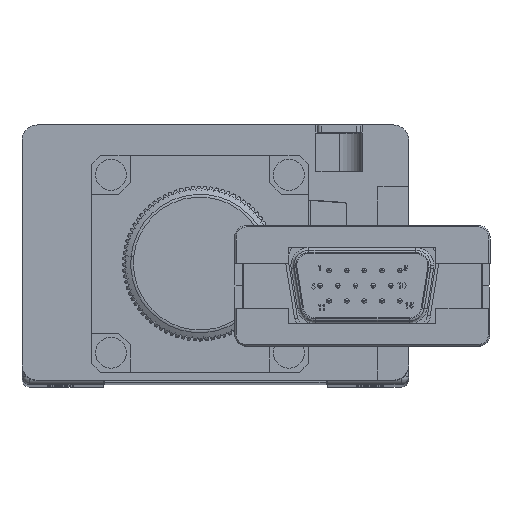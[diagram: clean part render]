
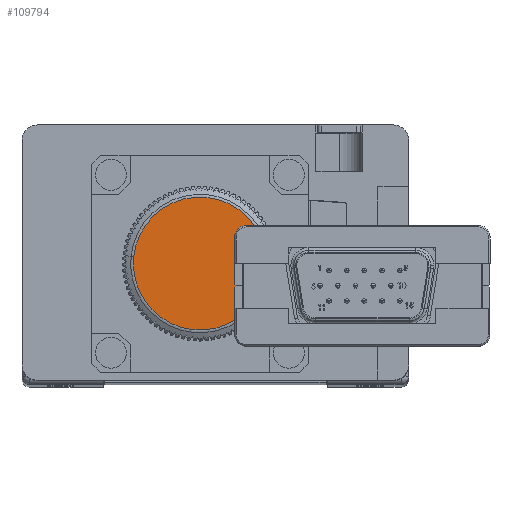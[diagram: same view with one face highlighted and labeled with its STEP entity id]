
A CAD part, top view. The second image highlights one B-rep face of the part: STEP entity #109794.
In plain terms, the highlighted planar face has unit normal (0, 0, 1).
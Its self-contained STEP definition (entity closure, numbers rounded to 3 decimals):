
#4438 = FACE_OUTER_BOUND ( 'NONE', #48147, .T. ) ;
#5040 = DIRECTION ( 'NONE',  ( -0.994, 0.106, 0. ) ) ;
#6274 = DIRECTION ( 'NONE',  ( 0., 0., -1. ) ) ;
#7108 = CIRCLE ( 'NONE', #67295, 8.6 ) ;
#11366 = ORIENTED_EDGE ( 'NONE', *, *, #95222, .T. ) ;
#12486 = ORIENTED_EDGE ( 'NONE', *, *, #18985, .T. ) ;
#14658 = CARTESIAN_POINT ( 'NONE',  ( -10.552, 16.411, 267.5 ) ) ;
#18985 = EDGE_CURVE ( 'NONE', #40961, #92089, #111155, .T. ) ;
#31118 = AXIS2_PLACEMENT_3D ( 'NONE', #33482, #6274, #5040 ) ;
#33482 = CARTESIAN_POINT ( 'NONE',  ( -2., 15.5, 267.5 ) ) ;
#34956 = CARTESIAN_POINT ( 'NONE',  ( -2., 15.5, 267.5 ) ) ;
#35619 = CARTESIAN_POINT ( 'NONE',  ( -2., 15.5, 267.5 ) ) ;
#40961 = VERTEX_POINT ( 'NONE', #14658 ) ;
#48147 = EDGE_LOOP ( 'NONE', ( #12486, #11366 ) ) ;
#65191 = DIRECTION ( 'NONE',  ( -0.994, 0.106, 0. ) ) ;
#66458 = DIRECTION ( 'NONE',  ( 0., 0., 1. ) ) ;
#66716 = AXIS2_PLACEMENT_3D ( 'NONE', #34956, #66458, #65191 ) ;
#67295 = AXIS2_PLACEMENT_3D ( 'NONE', #35619, #103135, #74720 ) ;
#74720 = DIRECTION ( 'NONE',  ( -0.994, 0.106, 0. ) ) ;
#92089 = VERTEX_POINT ( 'NONE', #121574 ) ;
#95222 = EDGE_CURVE ( 'NONE', #92089, #40961, #7108, .T. ) ;
#101610 = PLANE ( 'NONE',  #31118 ) ;
#103135 = DIRECTION ( 'NONE',  ( 0., 0., 1. ) ) ;
#109794 = ADVANCED_FACE ( 'NONE', ( #4438 ), #101610, .F. ) ;
#111155 = CIRCLE ( 'NONE', #66716, 8.6 ) ;
#121574 = CARTESIAN_POINT ( 'NONE',  ( 6.552, 14.589, 267.5 ) ) ;
